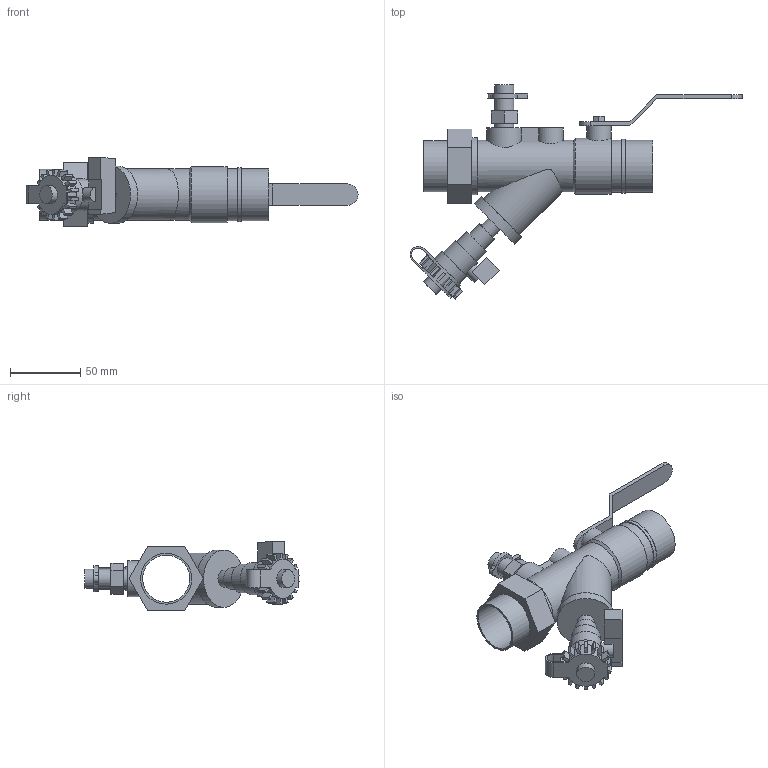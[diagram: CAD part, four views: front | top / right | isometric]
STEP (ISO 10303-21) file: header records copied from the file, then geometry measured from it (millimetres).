
FILE_DESCRIPTION(/* description */ ('VIC Y-STRAINER/BALL SERIES 78Y (FPT)','CAx-IF Rec.Pracs.---Representation and Presentation of Product Manufacturing Information (PMI)---4.0---2014-10-13'),/* implementation_level */ '2;1');
FILE_NAME(/* name */ 'C:\Users\kkamble\Desktop\extraction\OldVersions\Victaulic_IPS_Valve Ball Y Strainer Combination_Series 78Y (FPT)\Victaulic_IPS_Valve Ball Y Strainer Combination_Series 78Y (FPT)_01.0x01.0 (25x25).stp',/* time_stamp */ '2020-10-19T10:39:00+05:00',/* author */ ('kkamble'),/* organization */ ('Victaulic'),/* preprocessor_version */ 'ST-DEVELOPER v17.2',/* originating_system */ 'Autodesk Inventor 2019',/* authorisation */ '');
FILE_SCHEMA (('AP242_MANAGED_MODEL_BASED_3D_ENGINEERING_MIM_LF { 1 0 10303 442 1 1 4 }'));
Length unit declared in the file: inch
Products named in the file (1): 78Y-1.0x1.0
Bounding box: 235.7 x 151.95 x 49.53 mm (x, y, z)
Volume: 107803.4 mm3; surface area: 69279.9 mm2
Topology: 2 solids, 3 shells, 211 faces, 517 edges, 349 vertices
Faces by surface type: plane 154, cylinder 56, cone 1
Full cylindrical faces by diameter (mm): 10.16 x1, 10.998 x1, 11.887 x1, 12.565 x1, 13.462 x5, 15.24 x1, 17.272 x1, 20.32 x1, 22.86 x1, 25.4 x1, 27.94 x1, 33.401 x2, 36.195 x1, 36.322 x1, 36.576 x1, 36.83 x2, 38.1 x1, 39.624 x1, 40.64 x2
Entity records: 6867 total; most frequent: CARTESIAN_POINT 1491, DIRECTION 1115, ORIENTED_EDGE 1034, EDGE_CURVE 517, AXIS2_PLACEMENT_3D 391, VERTEX_POINT 349, LINE 333, VECTOR 333
